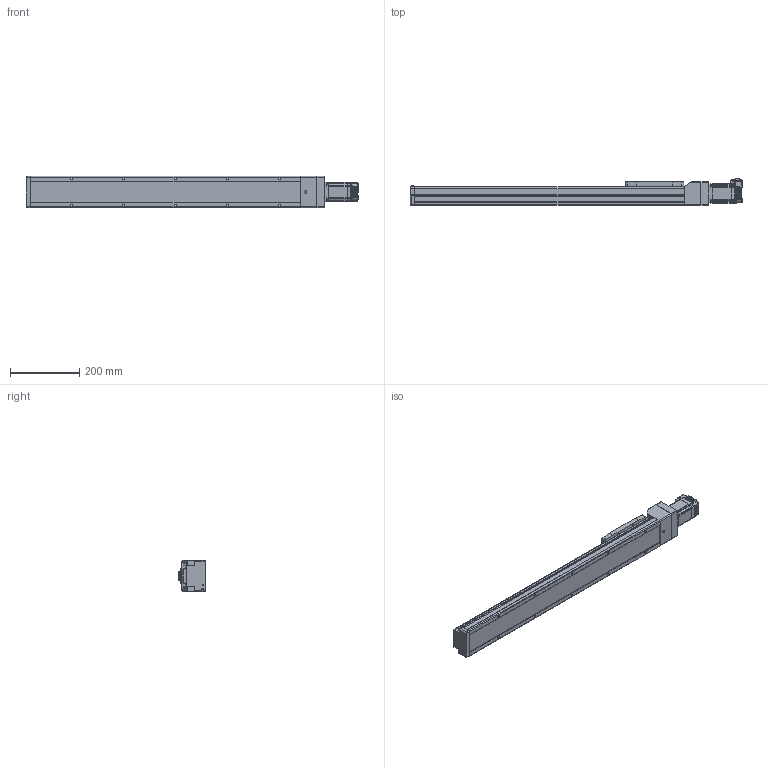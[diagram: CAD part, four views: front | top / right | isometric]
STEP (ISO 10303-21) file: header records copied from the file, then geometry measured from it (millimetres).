
FILE_DESCRIPTION (( 'STEP AP214' ), '1' );
FILE_NAME ('LEFS3(+)-40NM1仩-600-23L.STEP', '2023-06-02T05:14:46', ( '' ), ( '' ), 'SwSTEP 2.0', 'SolidWorks 2019', '' );
FILE_SCHEMA (( 'AUTOMOTIVE_DESIGN' ));
Length unit declared in the file: millimetre
Products named in the file (5): LEFS3(+)-40NM1_Motor Flange; CM3(+)-23L50A_4-M4; LEFS3(+)-40NM1仩-600-23L; LEFS3(+)-40NM1_TABLE; LEFS3(+)-40NM1?_BODY_600
Assembly tree (4 placements, depth 2):
  LEFS3(+)-40NM1仩-600-23L
    LEFS3(+)-40NM1?_BODY_600
    LEFS3(+)-40NM1_TABLE
    LEFS3(+)-40NM1_Motor Flange
    CM3(+)-23L50A_4-M4
Bounding box: 957.6 x 76.75 x 90 mm (x, y, z)
Volume: 4040949.2 mm3; surface area: 364033.2 mm2
Topology: 5 solids, 14 shells, 1654 faces, 4293 edges, 2656 vertices
Faces by surface type: plane 764, cylinder 519, bspline 133, cone 117, torus 74, sphere 47
Entity records: 56073 total; most frequent: CARTESIAN_POINT 14009, ORIENTED_EDGE 8436, DIRECTION 7866, EDGE_CURVE 4218, AXIS2_PLACEMENT_3D 2676, VERTEX_POINT 2656, VECTOR 2514, LINE 2514
